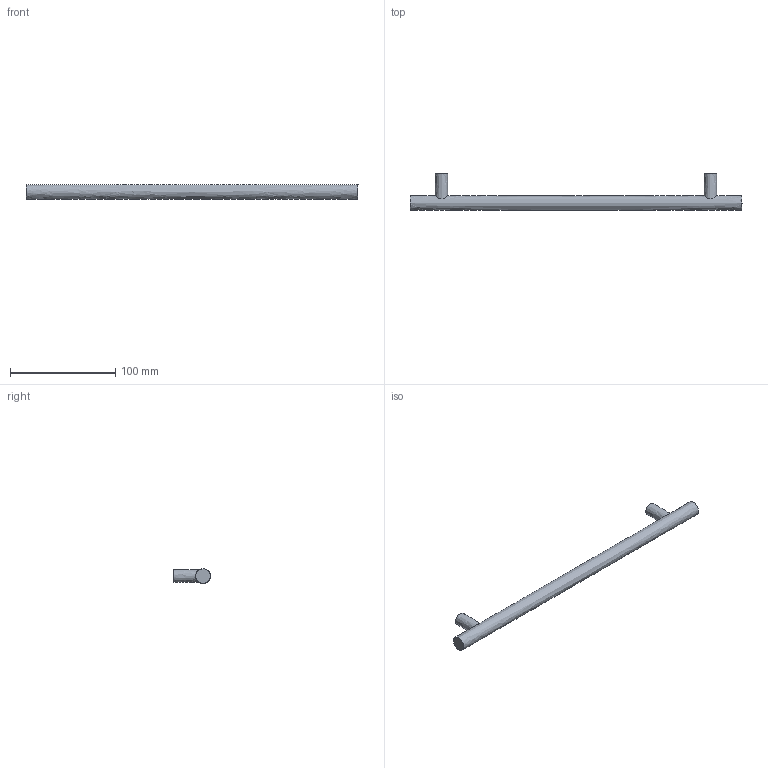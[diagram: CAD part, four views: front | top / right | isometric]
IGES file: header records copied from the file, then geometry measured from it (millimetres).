
Start section: Data from Parasolid IGES Translator 15.0.47, Copyright(c) 2006 Siemens P LM Software. All Rights Reserved.
Global section: file name: 9071052.igs; native system:  By UGS Corp.; preprocessor: XPlus GENERIC/IGES 3.0; author: Noname; organization: Noname; date: 20140122.181415; units: millimetre
Bounding box: 316 x 35 x 14 mm (x, y, z)
Surface area: 16178.1 mm2 (no closed solid volume)
Topology: 0 solids, 0 shells, 11 faces, 30 edges, 22 vertices
Faces by surface type: extrusion 6, revolution 5
